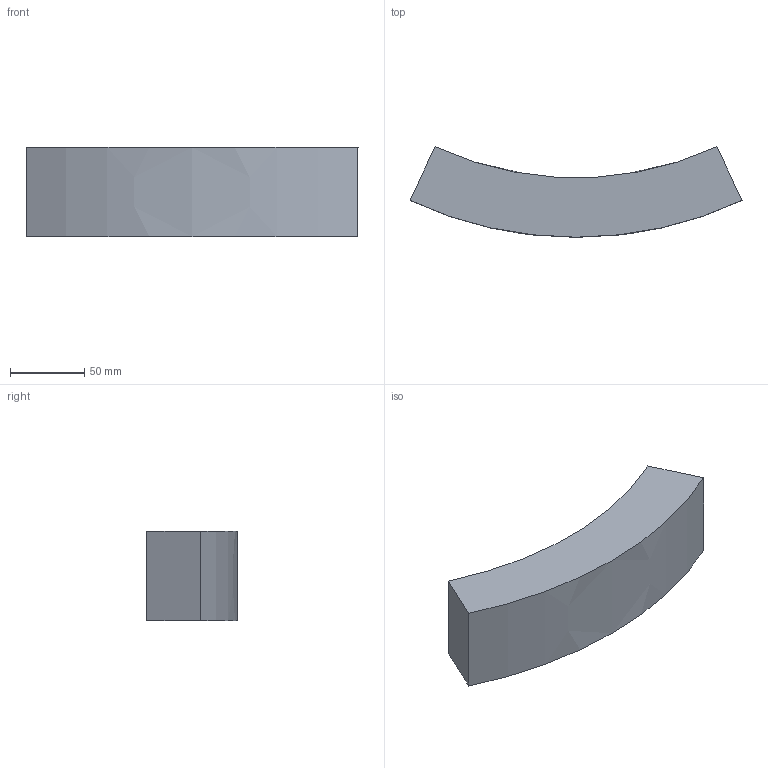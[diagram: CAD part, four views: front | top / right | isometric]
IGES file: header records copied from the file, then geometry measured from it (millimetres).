
Start section:  PTC IGES file: d160-1600_fixbloc_d225_pk-01.igs
Global section: file name: d160-1600_fixbloc_d225_pk-01.igs; native system: Creo Parametric by PTC Inc.; preprocessor: 2019030; author: demmerls; organization: Unknown; date: 20200925.141719; units: millimetre
Bounding box: 223.55 x 60.99 x 60 mm (x, y, z)
Surface area: 47471.4 mm2 (no closed solid volume)
Topology: 0 solids, 0 shells, 6 faces, 24 edges, 24 vertices
Faces by surface type: bspline 6
